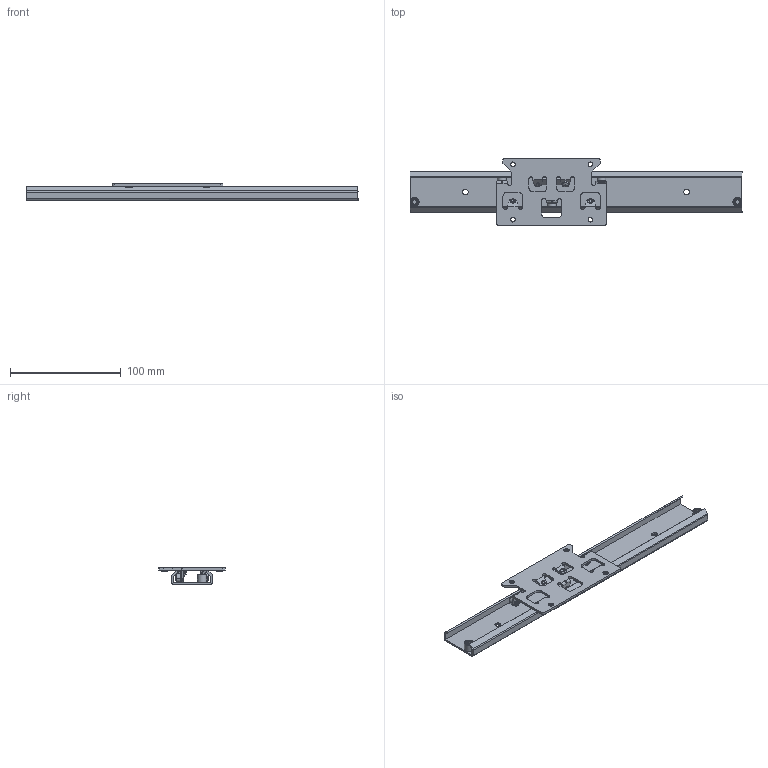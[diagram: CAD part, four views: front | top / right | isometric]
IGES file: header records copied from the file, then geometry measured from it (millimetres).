
Global section: native system: Kubotek KeyCreator; preprocessor: KCM Version 1.1.1442.0; author: KeyCreator User; organization: Self; date: 20181022.102651; units: millimetre
Bounding box: 300 x 60 x 14.8 mm (x, y, z)
Surface area: 52486.2 mm2 (no closed solid volume)
Topology: 0 solids, 0 shells, 903 faces, 5987 edges, 5988 vertices
Faces by surface type: bspline 903
